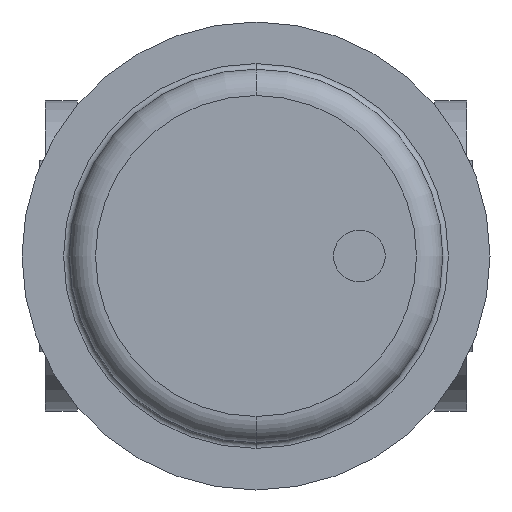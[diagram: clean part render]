
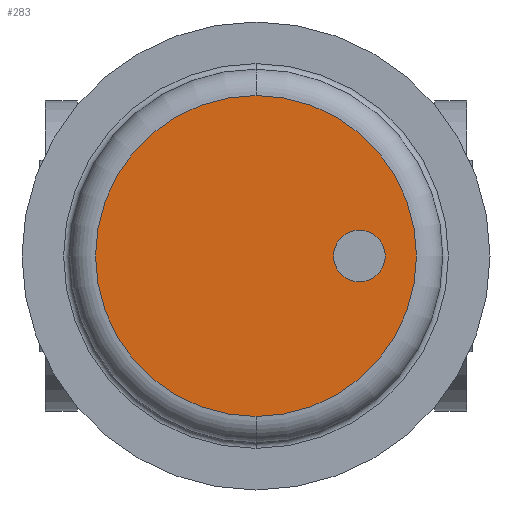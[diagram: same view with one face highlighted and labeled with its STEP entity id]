
A CAD part, front view. The second image highlights one B-rep face of the part: STEP entity #283.
In plain terms, the highlighted planar face has unit normal (0, -1, 0).
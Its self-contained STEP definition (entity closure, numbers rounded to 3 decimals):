
#283 = ADVANCED_FACE( '', ( #652, #653 ), #654, .T. );
#652 = FACE_BOUND( '', #1037, .T. );
#653 = FACE_OUTER_BOUND( '', #1038, .T. );
#654 = PLANE( '', #1039 );
#1037 = EDGE_LOOP( '', ( #2307, #2308 ) );
#1038 = EDGE_LOOP( '', ( #2309, #2310, #2311 ) );
#1039 = AXIS2_PLACEMENT_3D( '', #2312, #2313, #2314 );
#2307 = ORIENTED_EDGE( '', *, *, #2805, .T. );
#2308 = ORIENTED_EDGE( '', *, *, #2807, .T. );
#2309 = ORIENTED_EDGE( '', *, *, #2799, .F. );
#2310 = ORIENTED_EDGE( '', *, *, #2798, .F. );
#2311 = ORIENTED_EDGE( '', *, *, #2808, .F. );
#2312 = CARTESIAN_POINT( '', ( 157.688, -491., 0. ) );
#2313 = DIRECTION( '', ( 0., -1., 0. ) );
#2314 = DIRECTION( '', ( -1., 0., 0. ) );
#2798 = EDGE_CURVE( '', #3465, #3468, #3469, .T. );
#2799 = EDGE_CURVE( '', #3468, #3470, #3471, .T. );
#2805 = EDGE_CURVE( '', #3475, #3479, #3481, .T. );
#2807 = EDGE_CURVE( '', #3479, #3475, #3483, .T. );
#2808 = EDGE_CURVE( '', #3470, #3465, #3484, .T. );
#3465 = VERTEX_POINT( '', #4779 );
#3468 = VERTEX_POINT( '', #4782 );
#3469 = CIRCLE( '', #4783, 85.375 );
#3470 = VERTEX_POINT( '', #4784 );
#3471 = CIRCLE( '', #4785, 85.375 );
#3475 = VERTEX_POINT( '', #4789 );
#3479 = VERTEX_POINT( '', #4794 );
#3481 = CIRCLE( '', #4797, 13.75 );
#3483 = CIRCLE( '', #4799, 13.75 );
#3484 = CIRCLE( '', #4800, 85.375 );
#4779 = CARTESIAN_POINT( '', ( 115., -491., 85.375 ) );
#4782 = CARTESIAN_POINT( '', ( 200.375, -491., 0. ) );
#4783 = AXIS2_PLACEMENT_3D( '', #5692, #5693, #5694 );
#4784 = CARTESIAN_POINT( '', ( 115., -491., -85.375 ) );
#4785 = AXIS2_PLACEMENT_3D( '', #5695, #5696, #5697 );
#4789 = CARTESIAN_POINT( '', ( 183.75, -491., 0. ) );
#4794 = CARTESIAN_POINT( '', ( 156.25, -491., 0. ) );
#4797 = AXIS2_PLACEMENT_3D( '', #5709, #5710, #5711 );
#4799 = AXIS2_PLACEMENT_3D( '', #5715, #5716, #5717 );
#4800 = AXIS2_PLACEMENT_3D( '', #5718, #5719, #5720 );
#5692 = CARTESIAN_POINT( '', ( 115., -491., 0. ) );
#5693 = DIRECTION( '', ( 0., 1., 0. ) );
#5694 = DIRECTION( '', ( 1., 0., 0. ) );
#5695 = CARTESIAN_POINT( '', ( 115., -491., 0. ) );
#5696 = DIRECTION( '', ( 0., 1., 0. ) );
#5697 = DIRECTION( '', ( 1., 0., 0. ) );
#5709 = CARTESIAN_POINT( '', ( 170., -491., 0. ) );
#5710 = DIRECTION( '', ( 0., 1., 0. ) );
#5711 = DIRECTION( '', ( 1., 0., 0. ) );
#5715 = CARTESIAN_POINT( '', ( 170., -491., 0. ) );
#5716 = DIRECTION( '', ( 0., 1., 0. ) );
#5717 = DIRECTION( '', ( 1., 0., 0. ) );
#5718 = CARTESIAN_POINT( '', ( 115., -491., 0. ) );
#5719 = DIRECTION( '', ( 0., 1., 0. ) );
#5720 = DIRECTION( '', ( 1., 0., 0. ) );
